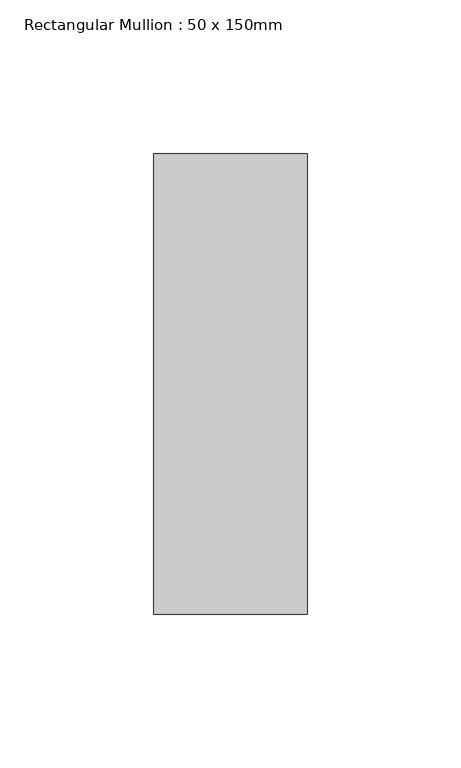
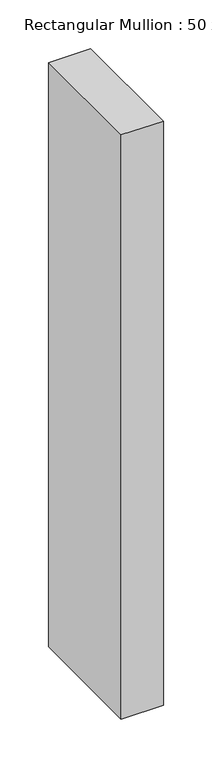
"""IFC4 building model written with IfcOpenShell, lengths in millimetres: member geometry, Rectangular Mullion : 50 x 150mm."""

from ifc_helpers import new_model, si_unit, frame, origin, place, context, project, spatial, polyline, outline, extrude, source, transform, mapped, element, save


def rectangular_mullion_50_x_150mm_be1420ea(model_context):
    return source(origin(), model_context, "Body", "SweptSolid", [
        extrude(outline(polyline([(0.0, 75.0), (0.0, -75.0), (-50.0, -75.0), (-50.0, 75.0), (0.0, 75.0)])), frame((0.0, 0.0, -734.1666666), z_axis=(0.0, 0.0, 1.0), x_axis=(1.0, 0.0, 0.0)), (0.0, 0.0, 1.0), 734.1666666),
    ])


if __name__ == "__main__":
    model = new_model("IFC4")
    model_context = context("Model", 3, world=origin())
    ifc_project = project(units=[si_unit("LENGTHUNIT", "METRE", prefix="MILLI")], contexts=[model_context])
    site = spatial("IfcSite", under=ifc_project)
    building = spatial("IfcBuilding", under=site)
    placement = place(None, origin())
    rectangular_mullion_50_x_150mm_shape = rectangular_mullion_50_x_150mm_be1420ea(model_context)
    element("IfcMember", 1, ObjectType="Rectangular Mullion : 50 x 150mm", at=placement, inside=building, context=model_context, shape_type="MappedRepresentation", body=[
        mapped(rectangular_mullion_50_x_150mm_shape, transform((0.0, 0.0, 0.0), x_axis=(1.0, 0.0, 0.0), y_axis=(0.0, 1.0, 0.0), z_axis=(0.0, 0.0, 1.0))),
    ])
    save(model, "model.ifc")
